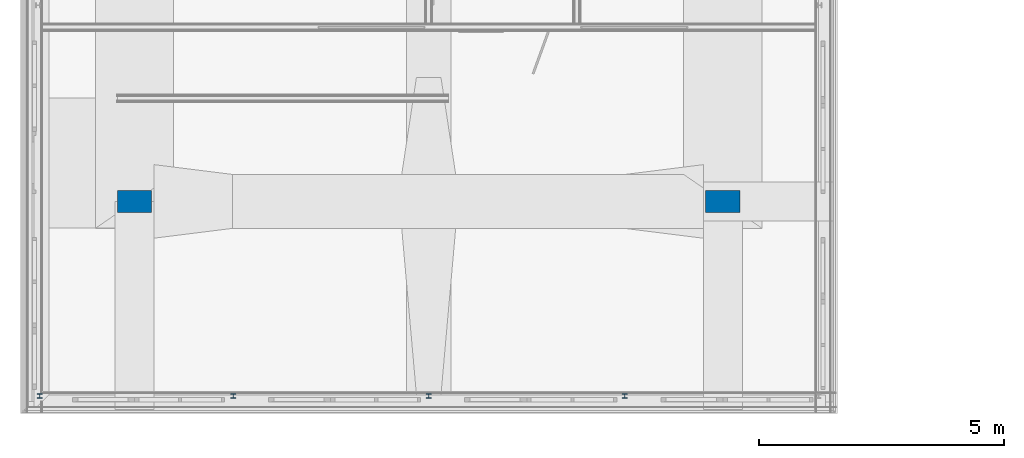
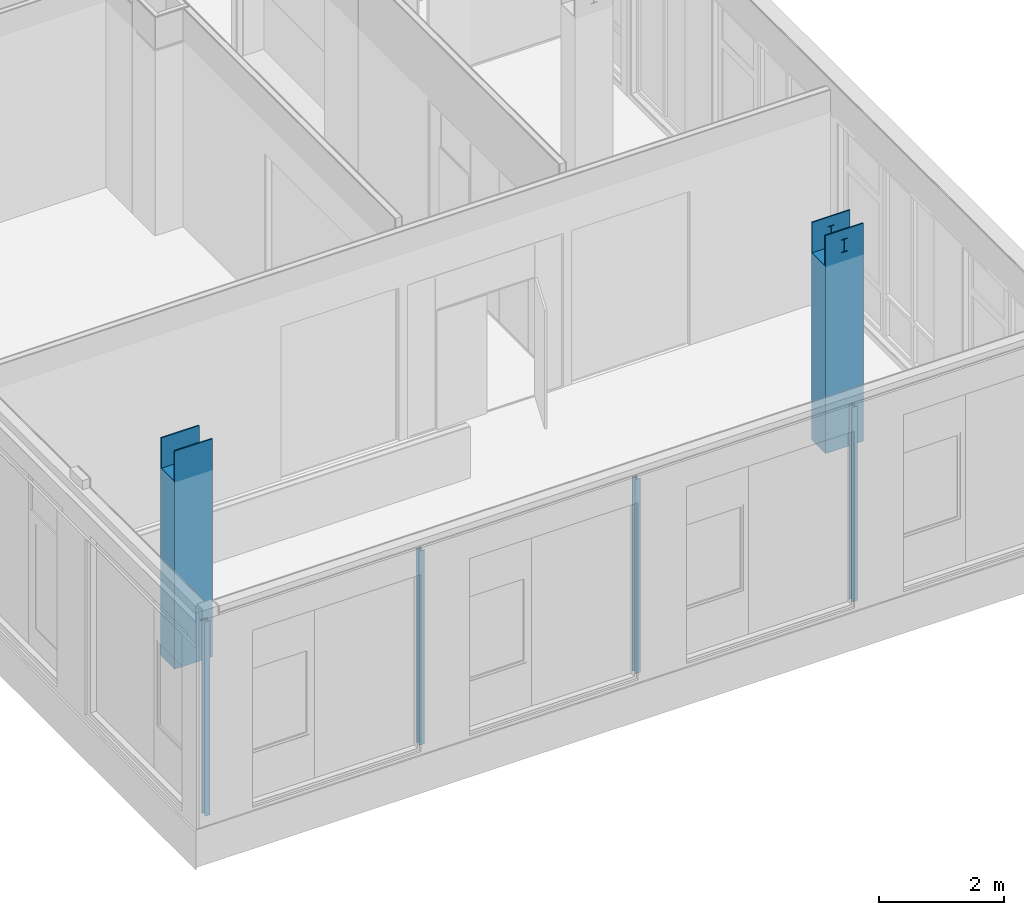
# One storey, part 3 of 94: 6 columns.
"""IFC2X3 building model written with IfcOpenShell, lengths in millimetres."""

from ifc_helpers import new_model, entity, si_unit, converted_unit, derived_unit, money_unit, direction, frame, origin_with_axes, place, context, subcontext, project, spatial, faceted_brep, material, type_object, element, save


model = new_model("IFC2X3")

# Units and contexts
model_context = context("Model", 3, precision=0.01, world=origin_with_axes(), true_north=direction((0.0, 1.0)))
body_context = subcontext(model_context, "Body", "Model", "MODEL_VIEW")
ifc_project = project(units=[si_unit("LENGTHUNIT", "METRE", prefix="MILLI"), si_unit("AREAUNIT", "SQUARE_METRE"), si_unit("VOLUMEUNIT", "CUBIC_METRE"), converted_unit("PLANEANGLEUNIT", "DEGREE", entity("IfcPlaneAngleMeasure", 0.0174532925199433), si_unit("PLANEANGLEUNIT", "RADIAN"), dimensions=[0, 0, 0, 0, 0, 0, 0]), money_unit("EUR"), converted_unit("TIMEUNIT", "Year", entity("IfcTimeMeasure", 31557600.0), si_unit("TIMEUNIT", "SECOND"), dimensions=[0, 0, 1, 0, 0, 0, 0]), si_unit("MASSUNIT", "GRAM", prefix="KILO"), si_unit("THERMODYNAMICTEMPERATUREUNIT", "DEGREE_CELSIUS"), si_unit("LUMINOUSINTENSITYUNIT", "LUMEN"), si_unit("ENERGYUNIT", "JOULE", prefix="MEGA"), derived_unit("THERMALCONDUCTANCEUNIT", [(si_unit("POWERUNIT", "WATT"), 1), (si_unit("LENGTHUNIT", "METRE"), -1), (si_unit("THERMODYNAMICTEMPERATUREUNIT", "KELVIN"), -1)]), derived_unit("SPECIFICHEATCAPACITYUNIT", [(si_unit("ENERGYUNIT", "JOULE"), 1), (si_unit("MASSUNIT", "GRAM", prefix="KILO"), -1), (si_unit("THERMODYNAMICTEMPERATUREUNIT", "KELVIN"), -1)]), derived_unit("MASSDENSITYUNIT", [(si_unit("MASSUNIT", "GRAM", prefix="KILO"), 1), (si_unit("VOLUMEUNIT", "CUBIC_METRE"), -1)])], contexts=[model_context])

# Site, building, storey
site_placement = place(None, origin_with_axes())
site = spatial("IfcSite", under=ifc_project, at=site_placement, Name="<site naam>", CompositionType="ELEMENT")
building_placement = place(site_placement, origin_with_axes())
building = spatial("IfcBuilding", under=site, at=building_placement, Name="<Naam gebouw>", CompositionType="ELEMENT")
storey_placement = place(building_placement, frame((0.0, 0.0, 4250.0), z_axis=(0.0, 0.0, 1.0), x_axis=(1.0, 0.0, 0.0)))
storey = spatial("IfcBuildingStorey", under=building, at=storey_placement, Name="01 1e verdieping", CompositionType="ELEMENT", Elevation=4250.0)

# Columns
ifc_material_1 = material(Name="staal C")
column_type_1 = type_object("IfcColumnType", Name="Profiel H algemeen 100 x 96", PredefinedType="COLUMN")
column_1_placement = place(storey_placement, frame((-1.162892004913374e-08, -11968.49999712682, 0.0), z_axis=(0.0, 0.0, 1.0), x_axis=(1.0, 0.0, 0.0)))
element("IfcColumn", 1, at=column_1_placement, inside=storey, type_object=column_type_1, material=ifc_material_1, Name="28_Kolom_Profiel", ObjectType="COLUMN", context=body_context, shape_type="Brep", body=[
    faceted_brep([(-50.00000009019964, -48.00000045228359, 3789.999753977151), (-50.00000009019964, -48.00000045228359, 0.0), (50.00000009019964, -48.00000045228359, 0.0), (50.00000009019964, -48.00000045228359, 3789.999753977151), (-50.00000014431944, -39.99999797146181, 3789.999753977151), (-50.00000014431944, -39.99999797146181, 0.0), (-2.499999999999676, -39.99999797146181, 0.0), (-2.499999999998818, 39.99999797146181, 0.0), (-50.00000014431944, 39.99999797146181, 0.0), (-50.00000009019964, 48.00000045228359, 0.0), (50.00000009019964, 48.00000045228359, 0.0), (50.00000014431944, 39.99999797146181, 0.0), (2.500000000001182, 39.99999797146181, 0.0), (2.500000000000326, -39.99999797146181, 0.0), (50.00000014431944, -39.99999797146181, 0.0), (50.00000014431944, -39.99999797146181, 3789.999753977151), (2.500000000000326, -39.99999797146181, 3789.999753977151), (2.500000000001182, 39.99999797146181, 3789.999753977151), (50.00000014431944, 39.99999797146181, 3789.999753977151), (50.00000009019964, 48.00000045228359, 3789.999753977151), (-50.00000009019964, 48.00000045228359, 3789.999753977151), (-50.00000014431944, 39.99999797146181, 3789.999753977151), (-2.499999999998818, 39.99999797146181, 3789.999753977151), (-2.499999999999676, -39.99999797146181, 3789.999753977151)], [[[0, 1, 2, 3]], [[4, 5, 1, 0]], [[2, 1, 5, 6, 7, 8, 9, 10, 11, 12, 13, 14]], [[3, 2, 14, 15]], [[4, 0, 3, 15, 16, 17, 18, 19, 20, 21, 22, 23]], [[23, 6, 5, 4]], [[22, 7, 6, 23]], [[21, 8, 7, 22]], [[20, 9, 8, 21]], [[19, 10, 9, 20]], [[18, 11, 10, 19]], [[17, 12, 11, 18]], [[16, 13, 12, 17]], [[15, 14, 13, 16]]]),
])
column_2_placement = place(storey_placement, frame((-4000.000000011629, -11968.49999712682, 0.0), z_axis=(0.0, 0.0, 1.0), x_axis=(1.0, 0.0, 0.0)))
element("IfcColumn", 2, at=column_2_placement, inside=storey, type_object=column_type_1, material=ifc_material_1, Name="28_Kolom_Profiel", ObjectType="COLUMN", context=body_context, shape_type="Brep", body=[
    faceted_brep([(-50.00000009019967, -48.00000045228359, 3789.999753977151), (-50.00000009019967, -48.00000045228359, 0.0), (50.00000009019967, -48.00000045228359, 0.0), (50.00000009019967, -48.00000045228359, 3789.999753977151), (-50.00000014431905, -39.99999797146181, 3789.999753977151), (-50.00000014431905, -39.99999797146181, 0.0), (-2.499999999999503, -39.99999797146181, 0.0), (-2.499999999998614, 39.99999797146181, 0.0), (-50.00000014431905, 39.99999797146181, 0.0), (-50.00000009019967, 48.00000045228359, 0.0), (50.00000009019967, 48.00000045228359, 0.0), (50.00000014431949, 39.99999797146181, 0.0), (2.500000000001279, 39.99999797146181, 0.0), (2.500000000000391, -39.99999797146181, 0.0), (50.00000014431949, -39.99999797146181, 0.0), (50.00000014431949, -39.99999797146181, 3789.999753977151), (2.500000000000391, -39.99999797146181, 3789.999753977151), (2.500000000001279, 39.99999797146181, 3789.999753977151), (50.00000014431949, 39.99999797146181, 3789.999753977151), (50.00000009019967, 48.00000045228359, 3789.999753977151), (-50.00000009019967, 48.00000045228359, 3789.999753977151), (-50.00000014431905, 39.99999797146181, 3789.999753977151), (-2.499999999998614, 39.99999797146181, 3789.999753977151), (-2.499999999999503, -39.99999797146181, 3789.999753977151)], [[[0, 1, 2, 3]], [[4, 5, 1, 0]], [[2, 1, 5, 6, 7, 8, 9, 10, 11, 12, 13, 14]], [[3, 2, 14, 15]], [[4, 0, 3, 15, 16, 17, 18, 19, 20, 21, 22, 23]], [[23, 6, 5, 4]], [[22, 7, 6, 23]], [[21, 8, 7, 22]], [[20, 9, 8, 21]], [[19, 10, 9, 20]], [[18, 11, 10, 19]], [[17, 12, 11, 18]], [[16, 13, 12, 17]], [[15, 14, 13, 16]]]),
])
column_3_placement = place(storey_placement, frame((-7983.975925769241, -11968.50534468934, 0.0), z_axis=(0.0, 0.0, 1.0), x_axis=(1.0, 0.0, 0.0)))
element("IfcColumn", 3, at=column_3_placement, inside=storey, type_object=column_type_1, material=ifc_material_1, Name="28_Kolom_Profiel", ObjectType="COLUMN", context=body_context, shape_type="Brep", body=[
    faceted_brep([(-50.00000009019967, -48.00000045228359, 3789.999753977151), (-50.00000009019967, -48.00000045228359, 0.0), (50.00000009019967, -48.00000045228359, 0.0), (50.00000009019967, -48.00000045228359, 3789.999753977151), (-50.00000014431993, -39.99999797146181, 3789.999753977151), (-50.00000014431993, -39.99999797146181, 0.0), (-2.499999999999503, -39.99999797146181, 0.0), (-2.499999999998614, 39.99999797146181, 0.0), (-50.00000014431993, 39.99999797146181, 0.0), (-50.00000009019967, 48.00000045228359, 0.0), (50.00000009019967, 48.00000045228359, 0.0), (50.00000014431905, 39.99999797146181, 0.0), (2.500000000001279, 39.99999797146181, 0.0), (2.500000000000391, -39.99999797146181, 0.0), (50.00000014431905, -39.99999797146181, 0.0), (50.00000014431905, -39.99999797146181, 3789.999753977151), (2.500000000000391, -39.99999797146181, 3789.999753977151), (2.500000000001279, 39.99999797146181, 3789.999753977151), (50.00000014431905, 39.99999797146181, 3789.999753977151), (50.00000009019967, 48.00000045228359, 3789.999753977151), (-50.00000009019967, 48.00000045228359, 3789.999753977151), (-50.00000014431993, 39.99999797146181, 3789.999753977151), (-2.499999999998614, 39.99999797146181, 3789.999753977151), (-2.499999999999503, -39.99999797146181, 3789.999753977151)], [[[0, 1, 2, 3]], [[4, 5, 1, 0]], [[2, 1, 5, 6, 7, 8, 9, 10, 11, 12, 13, 14]], [[3, 2, 14, 15]], [[4, 0, 3, 15, 16, 17, 18, 19, 20, 21, 22, 23]], [[23, 6, 5, 4]], [[22, 7, 6, 23]], [[21, 8, 7, 22]], [[20, 9, 8, 21]], [[19, 10, 9, 20]], [[18, 11, 10, 19]], [[17, 12, 11, 18]], [[16, 13, 12, 17]], [[15, 14, 13, 16]]]),
])
column_4_placement = place(storey_placement, frame((-11933.92512939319, -11967.4999995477, 0.0), z_axis=(0.0, 0.0, 1.0), x_axis=(1.0, 0.0, 0.0)))
element("IfcColumn", 4, at=column_4_placement, inside=storey, type_object=column_type_1, material=ifc_material_1, Name="28_Kolom_Profiel", ObjectType="COLUMN", context=body_context, shape_type="Brep", body=[
    faceted_brep([(-50.00000009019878, -48.00000045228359, 3789.999753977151), (-50.00000009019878, -48.00000045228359, 0.0), (50.00000009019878, -48.00000045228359, 0.0), (50.00000009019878, -48.00000045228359, 3789.999753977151), (-50.00000014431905, -39.99999797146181, 3789.999753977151), (-50.00000014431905, -39.99999797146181, 0.0), (-2.499999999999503, -39.99999797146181, 0.0), (-2.499999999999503, 39.99999797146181, 0.0), (-50.00000014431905, 39.99999797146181, 0.0), (-50.00000009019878, 48.00000045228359, 0.0), (50.00000009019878, 48.00000045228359, 0.0), (50.00000014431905, 39.99999797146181, 0.0), (2.500000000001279, 39.99999797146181, 0.0), (2.499999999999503, -39.99999797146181, 0.0), (50.00000014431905, -39.99999797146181, 0.0), (50.00000014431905, -39.99999797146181, 3789.999753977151), (2.499999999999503, -39.99999797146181, 3789.999753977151), (2.500000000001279, 39.99999797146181, 3789.999753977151), (50.00000014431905, 39.99999797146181, 3789.999753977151), (50.00000009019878, 48.00000045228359, 3789.999753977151), (-50.00000009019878, 48.00000045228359, 3789.999753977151), (-50.00000014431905, 39.99999797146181, 3789.999753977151), (-2.499999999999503, 39.99999797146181, 3789.999753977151), (-2.499999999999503, -39.99999797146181, 3789.999753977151)], [[[0, 1, 2, 3]], [[4, 5, 1, 0]], [[2, 1, 5, 6, 7, 8, 9, 10, 11, 12, 13, 14]], [[3, 2, 14, 15]], [[4, 0, 3, 15, 16, 17, 18, 19, 20, 21, 22, 23]], [[23, 6, 5, 4]], [[22, 7, 6, 23]], [[21, 8, 7, 22]], [[20, 9, 8, 21]], [[19, 10, 9, 20]], [[18, 11, 10, 19]], [[17, 12, 11, 18]], [[16, 13, 12, 17]], [[15, 14, 13, 16]]]),
])
ifc_material_2 = material(Name="betonblok C")
column_type_2 = type_object("IfcColumnType", Name="betonblok C 450 x 700", PredefinedType="COLUMN")
column_5_placement = place(storey_placement, frame((-9999.999999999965, -7999.999999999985, 0.0), z_axis=(0.0, 0.0, 1.0), x_axis=(0.0, 1.0, 0.0)))
element("IfcColumn", 5, at=column_5_placement, inside=storey, type_object=column_type_2, material=ifc_material_2, Name="28_Kolom_betonblok", ObjectType="COLUMN", context=body_context, shape_type="Brep", body=[
    faceted_brep([(224.9999999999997, 349.9999999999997, 4250.0), (200.0000000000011, 349.9999999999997, 4250.0), (200.0000000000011, -349.9999999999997, 4250.0), (224.9999999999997, -349.9999999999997, 4250.0), (-199.9999999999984, 349.9999999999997, 3659.999999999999), (200.0000000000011, 349.9999999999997, 3659.999999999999), (224.9999999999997, 349.9999999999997, 0.0), (-224.9999999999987, 349.9999999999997, 0.0), (-224.9999999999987, 349.9999999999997, 4250.0), (-199.9999999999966, 349.9999999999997, 4250.0), (200.0000000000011, -349.9999999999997, 3659.999999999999), (-199.9999999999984, -349.9999999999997, 3659.999999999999), (-199.9999999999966, -349.9999999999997, 4250.0), (-224.9999999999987, -349.9999999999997, 4250.0), (-224.9999999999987, -349.9999999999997, 0.0), (224.9999999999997, -349.9999999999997, 0.0)], [[[0, 1, 2, 3]], [[4, 5, 1, 0, 6, 7, 8, 9]], [[5, 10, 2, 1]], [[10, 11, 12, 13, 14, 15, 3, 2]], [[0, 3, 15, 6]], [[4, 11, 10, 5]], [[6, 15, 14, 7]], [[13, 8, 7, 14]], [[13, 12, 9, 8]], [[4, 9, 12, 11]]]),
])
column_6_placement = place(storey_placement, frame((2000.000000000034, -7999.999999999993, 0.0), z_axis=(0.0, 0.0, 1.0), x_axis=(0.0, 1.0, 0.0)))
element("IfcColumn", 6, at=column_6_placement, inside=storey, type_object=column_type_2, material=ifc_material_2, Name="28_Kolom_betonblok", ObjectType="COLUMN", context=body_context, shape_type="Brep", body=[
    faceted_brep([(-225.0000000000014, 56.50004253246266, 4070.000000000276), (-199.9999999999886, 56.50004253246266, 4070.000000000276), (-199.9999999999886, -56.50043557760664, 4070.000000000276), (-225.0000000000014, -56.50043557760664, 4070.000000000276), (-225.0000000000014, 56.50000294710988, 4055.900000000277), (-199.9999999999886, 56.50000294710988, 4055.900000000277), (-199.9999999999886, 349.9999999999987, 3659.999999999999), (-199.9999999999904, 349.9999999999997, 4250.0), (-199.9999999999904, -349.9999999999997, 4250.0), (-199.9999999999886, -350.0000000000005, 3659.999999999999), (-199.9999999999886, -4.700196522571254, 4055.900000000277), (-199.9999999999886, -56.50039599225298, 4055.900000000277), (-199.9999999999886, 4.699803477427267, 4055.900000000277), (-199.9999999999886, 4.699803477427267, 3824.099787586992), (-199.9999999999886, 56.50000294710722, 3824.09978758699), (-199.9999999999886, 56.50004253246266, 3809.999755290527), (-199.9999999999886, -56.50043557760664, 3809.999755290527), (-199.9999999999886, -56.5003959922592, 3824.09978758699), (-199.9999999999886, -4.700196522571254, 3824.099787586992), (-225.0000000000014, -56.50039599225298, 4055.900000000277), (-224.9999999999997, -349.9999999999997, 4250.0), (-224.9999999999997, 349.9999999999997, 4250.0), (-224.9999999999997, 349.9999999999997, 0.0), (-224.9999999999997, -349.9999999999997, 0.0), (-225.0000000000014, 4.699803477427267, 4055.900000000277), (-225.0000000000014, -4.700196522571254, 4055.900000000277), (-225.0000000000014, -4.700196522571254, 3824.099787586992), (-225.0000000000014, -56.5003959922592, 3824.09978758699), (-225.0000000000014, -56.50043557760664, 3809.999755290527), (-225.0000000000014, 56.50004253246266, 3809.999755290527), (-225.0000000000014, 56.50000294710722, 3824.09978758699), (-225.0000000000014, 4.699803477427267, 3824.099787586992), (200.0000000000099, 349.9999999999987, 3659.999999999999), (200.0000000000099, 349.9999999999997, 4250.0), (224.9999999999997, 349.9999999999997, 4250.0), (224.9999999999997, 349.9999999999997, 0.0), (200.0000000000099, -350.0000000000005, 3659.999999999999), (224.9999999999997, -349.9999999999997, 0.0), (224.9999999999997, -349.9999999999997, 4250.0), (200.0000000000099, -349.9999999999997, 4250.0), (200.0000000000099, 56.50000294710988, 4055.900000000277), (200.0000000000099, 56.50004253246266, 4070.000000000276), (200.0000000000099, -56.50043557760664, 4070.000000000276), (200.0000000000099, -56.50039599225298, 4055.900000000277), (200.0000000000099, -4.700196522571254, 4055.900000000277), (200.0000000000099, -4.700196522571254, 3824.099787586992), (200.0000000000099, -56.5003959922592, 3824.09978758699), (200.0000000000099, -56.50043557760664, 3809.999755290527), (200.0000000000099, 56.50004253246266, 3809.999755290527), (200.0000000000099, 56.50000294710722, 3824.09978758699), (200.0000000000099, 4.699803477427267, 3824.099787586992), (200.0000000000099, 4.699803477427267, 4055.900000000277), (225.0000000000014, -4.700196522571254, 3824.099787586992), (225.0000000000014, -4.700196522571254, 4055.900000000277), (225.0000000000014, -56.50039599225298, 4055.900000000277), (225.0000000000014, -56.50043557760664, 4070.000000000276), (225.0000000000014, 56.50004253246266, 4070.000000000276), (225.0000000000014, 56.50000294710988, 4055.900000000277), (225.0000000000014, 4.699803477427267, 4055.900000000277), (225.0000000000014, 4.699803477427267, 3824.099787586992), (225.0000000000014, 56.50000294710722, 3824.09978758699), (225.0000000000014, 56.50004253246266, 3809.999755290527), (225.0000000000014, -56.50043557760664, 3809.999755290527), (225.0000000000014, -56.5003959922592, 3824.09978758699)], [[[0, 1, 2, 3]], [[4, 5, 1, 0]], [[6, 7, 8, 9], [10, 11, 2, 1, 5, 12, 13, 14, 15, 16, 17, 18]], [[3, 2, 11, 19]], [[20, 21, 22, 23], [24, 4, 0, 3, 19, 25, 26, 27, 28, 29, 30, 31]], [[24, 12, 5, 4]], [[6, 32, 33, 34, 35, 22, 21, 7]], [[20, 8, 7, 21]], [[36, 9, 8, 20, 23, 37, 38, 39]], [[6, 9, 36, 32]], [[19, 11, 10, 25]], [[31, 13, 12, 24]], [[30, 14, 13, 31]], [[29, 15, 14, 30]], [[28, 16, 15, 29]], [[27, 17, 16, 28]], [[26, 18, 17, 27]], [[25, 10, 18, 26]], [[35, 37, 23, 22]], [[32, 36, 39, 33], [40, 41, 42, 43, 44, 45, 46, 47, 48, 49, 50, 51]], [[34, 33, 39, 38]], [[34, 38, 37, 35], [52, 53, 54, 55, 56, 57, 58, 59, 60, 61, 62, 63]], [[56, 41, 40, 57]], [[55, 42, 41, 56]], [[54, 43, 42, 55]], [[53, 44, 43, 54]], [[52, 45, 44, 53]], [[63, 46, 45, 52]], [[62, 47, 46, 63]], [[61, 48, 47, 62]], [[60, 49, 48, 61]], [[59, 50, 49, 60]], [[58, 51, 50, 59]], [[57, 40, 51, 58]]]),
])

save(model, "model.ifc")
